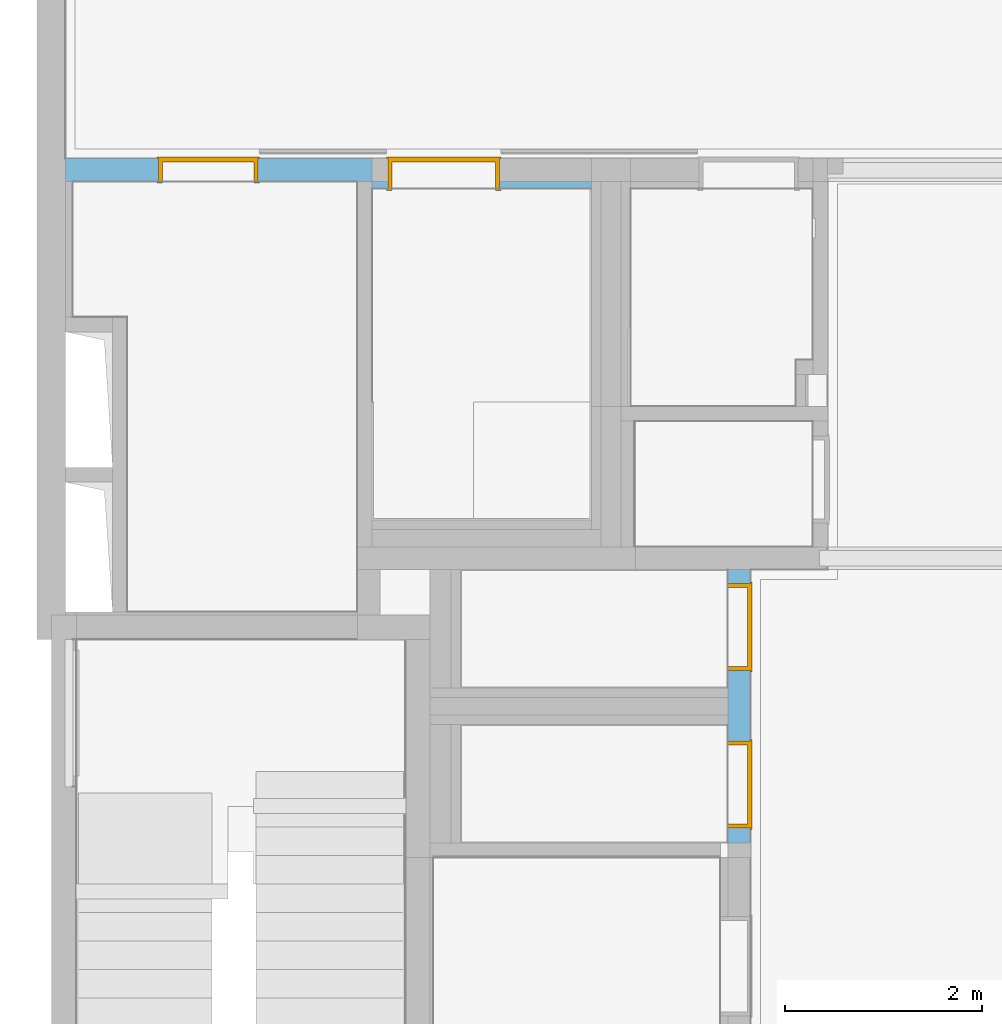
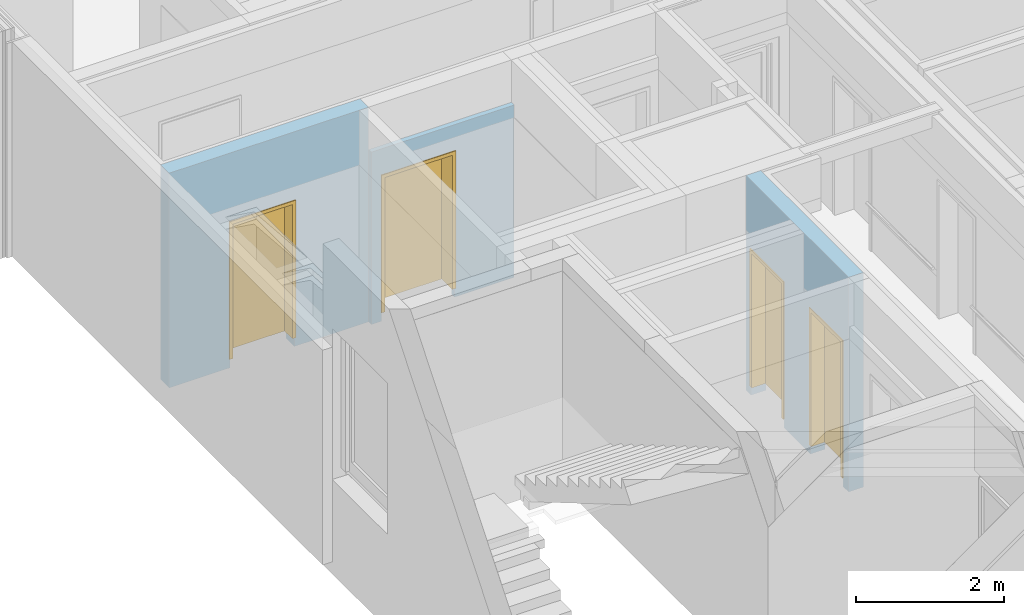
# One storey, part 71 of 222: 4 doors, 4 openings, plus 3 elements that do not belong to this part.
"""IFC4 building model written with IfcOpenShell, lengths in metres."""

import ifcopenshell
import ifcopenshell.guid

model = None  # the IFC model being written
_history = None  # IfcOwnerHistory: only IFC2X3 demands one
_inside = {}  # id of a spatial element -> (the spatial element, [elements in it])
_under = {}  # id of a project, library or spatial element -> (it, [spatial elements below it])
_declared = {}  # id of a project -> (the project, [libraries it declares])
_typed = {}  # id of a type object -> (the type object, [elements of that type])
_made_of = {}  # id of a material, layer set ... -> (it, [elements and type objects made of it])


def new_model(schema):
    """Start an empty IFC model of exactly this schema.

    Asked for "IFC4X3", IfcOpenShell would pick the latest addendum, in which some entities
    have other attributes; the version numbers below select the first issue.
    IFC2X3 requires an IfcOwnerHistory on every rooted entity: one is made here for all.
    """
    global model, _history
    if schema == "IFC4X3":
        model = ifcopenshell.file(schema_version=(4, 3, 0, 0))
    else:
        model = ifcopenshell.file(schema=schema)
    _inside.clear()
    _under.clear()
    _declared.clear()
    _typed.clear()
    _made_of.clear()
    _history = None
    if model.schema == "IFC2X3":
        org = make("IfcOrganization", Name="unknown")
        user = make(
            "IfcPersonAndOrganization",
            ThePerson=make("IfcPerson", FamilyName="unknown"),
            TheOrganization=org,
        )
        app = make(
            "IfcApplication",
            ApplicationDeveloper=org,
            Version="unknown",
            ApplicationFullName="unknown",
            ApplicationIdentifier="unknown",
        )
        _history = make(
            "IfcOwnerHistory",
            OwningUser=user,
            OwningApplication=app,
            ChangeAction="ADDED",
            CreationDate=0,
        )
    return model


def make(cls, **values):
    """One entity of the class cls with the attributes given. An attribute that is None is left unset."""
    return model.create_entity(
        cls, **{name: value for name, value in values.items() if value is not None}
    )


def entity(cls, *values):
    """Any entity or typed value of the class cls, its attributes in the order of the schema. None: left unset."""
    e = model.create_entity(cls)
    for i, value in enumerate(values):
        if value is not None:
            e[i] = value
    return e


def rooted(cls, **values):
    """An entity with a GlobalId (a new one), such as an element, a storey or a relation."""
    return make(cls, GlobalId=ifcopenshell.guid.new(), OwnerHistory=_history, **values)


def si_unit(unit_type, name, prefix=None):
    """IfcSIUnit, for example si_unit("LENGTHUNIT", "METRE", prefix="MILLI")."""
    return make("IfcSIUnit", UnitType=unit_type, Prefix=prefix, Name=name)


def converted_unit(unit_type, name, factor, base, dimensions=None, offset=None):
    """IfcConversionBasedUnit, such as the inch: factor (a typed value) times the base unit."""
    return make(
        "IfcConversionBasedUnit"
        if offset is None
        else "IfcConversionBasedUnitWithOffset",
        ConversionOffset=offset,
        Dimensions=None
        if dimensions is None
        else entity("IfcDimensionalExponents", *dimensions),
        UnitType=unit_type,
        Name=name,
        ConversionFactor=make(
            "IfcMeasureWithUnit", ValueComponent=factor, UnitComponent=base
        ),
    )


def derived_unit(unit_type, elements):
    """IfcDerivedUnit: a product of units, each with its exponent."""
    return make(
        "IfcDerivedUnit",
        Elements=[
            make("IfcDerivedUnitElement", Unit=unit, Exponent=power)
            for unit, power in elements
        ],
        UnitType=unit_type,
    )


def assignment(units):
    """IfcUnitAssignment: the units of a project."""
    return None if units is None else make("IfcUnitAssignment", Units=units)


def point(xyz):
    """IfcCartesianPoint."""
    return None if xyz is None else make("IfcCartesianPoint", Coordinates=xyz)


def direction(xyz):
    """IfcDirection."""
    return None if xyz is None else make("IfcDirection", DirectionRatios=xyz)


def frame(location, z_axis=None, x_axis=None):
    """IfcAxis2Placement3D, a coordinate frame: its origin and axes. An axis left out is left unset."""
    return make(
        "IfcAxis2Placement3D",
        Location=point(location),
        Axis=direction(z_axis),
        RefDirection=direction(x_axis),
    )


def frame_2d(location, x_axis=None):
    """IfcAxis2Placement2D, a coordinate frame in the plane: its origin and x axis."""
    return make(
        "IfcAxis2Placement2D", Location=point(location), RefDirection=direction(x_axis)
    )


def origin():
    """The frame at (0, 0, 0) with its axes left unset."""
    return frame((0.0, 0.0, 0.0))


def origin_with_axes():
    """The frame at (0, 0, 0) with the z axis (0, 0, 1) and the x axis (1, 0, 0) written out."""
    return frame((0.0, 0.0, 0.0), z_axis=(0.0, 0.0, 1.0), x_axis=(1.0, 0.0, 0.0))


def place(relative_to, where):
    """IfcLocalPlacement: puts the frame where relative to a parent placement (None: the world)."""
    return make(
        "IfcLocalPlacement", PlacementRelTo=relative_to, RelativePlacement=where
    )


def context(
    kind, dimensions, precision=None, world=None, true_north=None, identifier=None
):
    """IfcGeometricRepresentationContext, for example the 3D "Model" context."""
    return make(
        "IfcGeometricRepresentationContext",
        ContextIdentifier=identifier,
        ContextType=kind,
        CoordinateSpaceDimension=dimensions,
        Precision=precision,
        WorldCoordinateSystem=world,
        TrueNorth=true_north,
    )


def subcontext(parent, identifier, kind, view, scale=None):
    """IfcGeometricRepresentationSubContext, for example "Body" below "Model"."""
    return make(
        "IfcGeometricRepresentationSubContext",
        ContextIdentifier=identifier,
        ContextType=kind,
        ParentContext=parent,
        TargetScale=scale,
        TargetView=view,
    )


def project(units=None, contexts=None):
    """IfcProject with its units and contexts."""
    return rooted(
        "IfcProject",
        Name="project",
        RepresentationContexts=contexts,
        UnitsInContext=assignment(units),
    )


def spatial(cls, under=None, at=None, **own):
    """A site, building, storey or space (cls), placed at a placement, below another one or the project."""
    s = rooted(cls, ObjectPlacement=at, **own)
    if under is not None:
        _under.setdefault(under.id(), (under, []))[1].append(s)
    return s


def polyline(points):
    """IfcPolyline through the points."""
    return make("IfcPolyline", Points=[point(p) for p in points])


def profile(cls, at=None, kind="AREA", **sizes):
    """A parametric profile (cls). Its sizes go by their IFC names, for example OverallWidth=200.0."""
    return make(cls, ProfileType=kind, Position=at, **sizes)


def rectangle(**sizes):
    """IfcRectangleProfileDef."""
    return profile("IfcRectangleProfileDef", **sizes)


def outline(outer, holes=None, kind="AREA"):
    """IfcArbitraryClosedProfileDef: a profile drawn as a closed curve; with holes, ...WithVoids."""
    if holes is None:
        return make("IfcArbitraryClosedProfileDef", ProfileType=kind, OuterCurve=outer)
    return make(
        "IfcArbitraryProfileDefWithVoids",
        ProfileType=kind,
        OuterCurve=outer,
        InnerCurves=holes,
    )


def extrude(swept, where, along, depth):
    """IfcExtrudedAreaSolid: the profile swept, set in the frame where, extruded along a direction by depth."""
    return make(
        "IfcExtrudedAreaSolid",
        SweptArea=swept,
        Position=where,
        ExtrudedDirection=direction(along),
        Depth=depth,
    )


def faces_of(points, faces, orient=None, outer=None):
    """IfcFace entities. A face is a list of loops; a loop is a list of indices into points, from 0.

    orient and outer hold one flag for each loop. By default every Orientation is true, the
    first loop of a face is its IfcFaceOuterBound and the others are IfcFaceBound.
    """
    made = []
    for i, loops in enumerate(faces):
        bounds = []
        for j, loop in enumerate(loops):
            is_outer = j == 0 if outer is None else outer[i][j]
            bounds.append(
                make(
                    "IfcFaceOuterBound" if is_outer else "IfcFaceBound",
                    Bound=make("IfcPolyLoop", Polygon=[points[k] for k in loop]),
                    Orientation=True if orient is None else orient[i][j],
                )
            )
        made.append(make("IfcFace", Bounds=bounds))
    return made


def faceted_brep(points, faces, orient=None, outer=None, voids=None):
    """IfcFacetedBrep: a solid bounded by flat faces; with voids (closed shells), ...WithVoids."""
    shared = [point(p) for p in points]
    hull = make("IfcClosedShell", CfsFaces=faces_of(shared, faces, orient, outer))
    if voids is None:
        return make("IfcFacetedBrep", Outer=hull)
    return make(
        "IfcFacetedBrepWithVoids",
        Outer=hull,
        Voids=[
            make(cls, CfsFaces=faces_of(shared, fs, o, b)) for cls, fs, o, b in voids
        ],
    )


def shape(context_of_items, identifier, shape_type, items):
    """IfcShapeRepresentation: the items that make up one representation, for example the "Body"."""
    return make(
        "IfcShapeRepresentation",
        ContextOfItems=context_of_items,
        RepresentationIdentifier=identifier,
        RepresentationType=shape_type,
        Items=items,
    )


def source(mapping_origin, context_of_items, identifier, shape_type, items):
    """IfcRepresentationMap: a shape defined once, which mapped items show again and again."""
    return make(
        "IfcRepresentationMap",
        MappingOrigin=mapping_origin,
        MappedRepresentation=shape(context_of_items, identifier, shape_type, items),
    )


def transform(
    local_origin,
    x_axis=None,
    y_axis=None,
    z_axis=None,
    scale=None,
    scale2=None,
    scale3=None,
    uniform=True,
):
    """IfcCartesianTransformationOperator3D, or its non-uniform kind. x_axis, y_axis, z_axis: its Axis1, 2, 3."""
    if uniform:
        return make(
            "IfcCartesianTransformationOperator3D",
            Axis1=direction(x_axis),
            Axis2=direction(y_axis),
            LocalOrigin=point(local_origin),
            Scale=scale,
            Axis3=direction(z_axis),
        )
    return make(
        "IfcCartesianTransformationOperator3DnonUniform",
        Axis1=direction(x_axis),
        Axis2=direction(y_axis),
        LocalOrigin=point(local_origin),
        Scale=scale,
        Axis3=direction(z_axis),
        Scale2=scale2,
        Scale3=scale3,
    )


def mapped(mapping_source, mapping_target):
    """IfcMappedItem: shows the shape of a source again, moved by a transform."""
    return make(
        "IfcMappedItem", MappingSource=mapping_source, MappingTarget=mapping_target
    )


def material(Name=None, Category=None):
    """IfcMaterial."""
    return make("IfcMaterial", Name=Name, Category=Category)


def made_of(thing, what):
    """Note that an element or type object is made of a material, layer set ...; save() writes the relation."""
    if what is not None:
        _made_of.setdefault(what.id(), (what, []))[1].append(thing)
    return thing


def type_object(cls, material=None, **own):
    """A type object (cls), such as IfcWallType, which elements share."""
    return made_of(rooted(cls, **own), material)


def element(
    cls,
    number,
    at=None,
    inside=None,
    cuts=None,
    type_object=None,
    material=None,
    context=None,
    identifier="Body",
    shape_type=None,
    held_by="IfcProductDefinitionShape",
    body=None,
    shapes=None,
    **own,
):
    """One element of the class cls, such as IfcWall. Its Tag is "e" and its number.

    at: its placement. inside: the storey or other place that contains it. cuts: it is an
    opening in that element (IfcRelVoidsElement). A single representation is given by context,
    identifier, shape_type and body (its items); several are given by shapes. held_by: the class
    of the entity that holds the representations. save() writes the other relations.
    """
    e = rooted(cls, Tag="e%d" % number, ObjectPlacement=at, **own)
    if body is not None:
        shapes = [shape(context, identifier, shape_type, body)]
    if shapes is not None:
        e.Representation = make(held_by, Representations=shapes)
    if inside is not None:
        _inside.setdefault(inside.id(), (inside, []))[1].append(e)
    if cuts is not None:
        rooted(
            "IfcRelVoidsElement", RelatingBuildingElement=cuts, RelatedOpeningElement=e
        )
    if type_object is not None:
        _typed.setdefault(type_object.id(), (type_object, []))[1].append(e)
    return made_of(e, material)


def fill(opening, filler):
    """IfcRelFillsElement: the door or window that sits in an opening."""
    return rooted(
        "IfcRelFillsElement",
        RelatingOpeningElement=opening,
        RelatedBuildingElement=filler,
    )


def aggregate(whole, parts):
    """IfcRelAggregates: a whole, such as a stair, and the parts it consists of."""
    return rooted("IfcRelAggregates", RelatingObject=whole, RelatedObjects=parts)


def save(model, path):
    """Write the relations noted so far, then the file.

    IfcRelAggregates (storeys below a building ...), IfcRelContainedInSpatialStructure (elements
    in a storey), IfcRelDefinesByType, IfcRelAssociatesMaterial and IfcRelDeclares: one each for
    every whole, place, type object, material and project.
    """
    for whole, parts in _under.values():
        aggregate(whole, parts)
    for where, things in _inside.values():
        rooted(
            "IfcRelContainedInSpatialStructure",
            RelatedElements=things,
            RelatingStructure=where,
        )
    for kind, things in _typed.values():
        rooted("IfcRelDefinesByType", RelatedObjects=things, RelatingType=kind)
    for what, things in _made_of.values():
        rooted("IfcRelAssociatesMaterial", RelatedObjects=things, RelatingMaterial=what)
    for by, libraries in _declared.values():
        rooted("IfcRelDeclares", RelatingContext=by, RelatedDefinitions=libraries)
    model.write(path)


model = new_model("IFC4")

# Units and contexts
model_context = context("Model", 3, precision=1e-05, world=origin())
body_context = subcontext(model_context, "Body", "Model", "MODEL_VIEW")
ifc_project = project(units=[si_unit("LENGTHUNIT", "METRE"), si_unit("AREAUNIT", "SQUARE_METRE"), si_unit("VOLUMEUNIT", "CUBIC_METRE"), si_unit("MASSUNIT", "GRAM", prefix="KILO"), converted_unit("PLANEANGLEUNIT", "DEGREE", entity("IfcPlaneAngleMeasure", 0.0174532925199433), si_unit("PLANEANGLEUNIT", "RADIAN"), dimensions=[0, 0, 0, 0, 0, 0, 0]), derived_unit("THERMALTRANSMITTANCEUNIT", [(si_unit("POWERUNIT", "WATT"), 1), (si_unit("THERMODYNAMICTEMPERATUREUNIT", "KELVIN"), -1), (si_unit("LENGTHUNIT", "METRE"), -2)]), derived_unit("VOLUMETRICFLOWRATEUNIT", [(si_unit("LENGTHUNIT", "METRE"), 3), (converted_unit("TIMEUNIT", "hour", entity("IfcTimeMeasure", 3600.0), si_unit("TIMEUNIT", "SECOND"), dimensions=[0, 0, 1, 0, 0, 0, 0]), -1), (si_unit("LENGTHUNIT", "METRE"), -1)])], contexts=[model_context])

# Site, building, storey
site_placement = place(None, origin())
site = spatial("IfcSite", under=ifc_project, at=site_placement, Name="Psychiatrie Neubau Wunstorf", CompositionType="ELEMENT")
building_placement = place(site_placement, origin())
building = spatial("IfcBuilding", under=site, at=building_placement, Name="Neubau H2 Stationsgebäude", CompositionType="ELEMENT")
storey_placement = place(building_placement, frame((0.0, 0.0, 3.6)))
storey = spatial("IfcBuildingStorey", under=building, at=storey_placement, Name="H2 Ebene +1", CompositionType="ELEMENT", Elevation=3.6)

# Wall, openings, doors
ifc_material_1 = material(Name="WI-HW 60")
wall_1_placement = place(storey_placement, frame((7.1409987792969, 14.8750132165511, 0.0), z_axis=(0.0, 0.0, 1.0), x_axis=(0.0, 1.0, 0.0)))
wall_1 = element("IfcWall", 1, at=wall_1_placement, inside=storey, material=ifc_material_1, context=body_context, shape_type="SweptSolid", body=[
    extrude(rectangle(XDim=2.77900000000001, YDim=0.232, at=frame_2d((1.3895, 0.116), x_axis=(1.0, 0.0))), origin_with_axes(), (0.0, 0.0, 1.0), 3.55),
])
opening_1_placement = place(wall_1_placement, frame((1.75500131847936, 0.0, 0.0), z_axis=(0.0, 1.0, 0.0), x_axis=(0.0, 0.0, 1.0)))
opening_1 = element("IfcOpeningElement", 2, at=opening_1_placement, cuts=wall_1, Name="Türöffnung", ObjectType="Opening", context=body_context, shape_type="SweptSolid", body=[
    extrude(outline(polyline([(2.41, 0.885), (2.41, 0.0), (0.0, 0.0), (0.0, 0.885), (2.41, 0.885)])), origin_with_axes(), (0.0, 0.0, 1.0), 0.232),
])
opening_2_placement = place(wall_1_placement, frame((0.15, 0.0, 0.0), z_axis=(0.0, 1.0, 0.0), x_axis=(0.0, 0.0, 1.0)))
opening_2 = element("IfcOpeningElement", 3, at=opening_2_placement, cuts=wall_1, Name="Türöffnung", ObjectType="Opening", context=body_context, shape_type="SweptSolid", body=[
    extrude(outline(polyline([(2.41, 0.885), (2.41, 0.0), (0.0, 0.0), (0.0, 0.885), (2.41, 0.885)])), origin_with_axes(), (0.0, 0.0, 1.0), 0.232),
])
ifc_material_2 = material(Name="TI-1F-UZ-D-N")
door_type_1 = type_object("IfcDoorType", Name="SMT", OperationType="SINGLE_SWING_RIGHT", ParameterTakesPrecedence=False, PredefinedType="DOOR")
shared_shape_1 = source(origin_with_axes(), body_context, "Body", "Brep", [
    faceted_brep([(0.0, -0.0150000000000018, 2.41), (0.0400000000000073, -0.0150000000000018, 2.41), (0.0400000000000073, -0.0150000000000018, 0.15), (0.0, -0.0150000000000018, 0.15), (0.0, 0.246999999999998, 0.15), (0.0400000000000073, 0.246999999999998, 0.15), (0.0400000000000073, 0.246999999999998, 2.41), (0.0, 0.246999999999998, 2.41)], [[[0, 1, 2, 3]], [[4, 5, 6, 7]], [[3, 4, 7, 0]], [[2, 5, 4, 3]], [[1, 6, 5, 2]], [[0, 7, 6, 1]]], orient=[[False], [False], [False], [False], [False], [False]]),
    faceted_brep([(0.0, -0.0150000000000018, 2.425), (0.0, -0.0150000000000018, 0.15), (-0.0149999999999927, -0.0150000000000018, 0.15), (-0.0149999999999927, -0.0150000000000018, 2.425), (0.0, 0.0, 0.15), (0.0, 0.0, 2.425), (-0.0149999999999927, 0.0, 2.425), (-0.0149999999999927, 0.0, 0.15)], [[[0, 1, 2, 3]], [[4, 5, 6, 7]], [[1, 0, 5, 4]], [[2, 1, 4, 7]], [[3, 2, 7, 6]], [[0, 3, 6, 5]]], orient=[[False], [False], [False], [False], [False], [False]]),
    faceted_brep([(0.0, 0.231999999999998, 2.425), (0.0, 0.231999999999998, 0.15), (-0.0149999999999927, 0.231999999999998, 0.15), (-0.0149999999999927, 0.231999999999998, 2.425), (0.0, 0.246999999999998, 0.15), (0.0, 0.246999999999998, 2.425), (-0.0149999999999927, 0.246999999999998, 2.425), (-0.0149999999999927, 0.246999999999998, 0.15)], [[[0, 1, 2, 3]], [[4, 5, 6, 7]], [[1, 0, 5, 4]], [[2, 1, 4, 7]], [[3, 2, 7, 6]], [[0, 3, 6, 5]]], orient=[[False], [False], [False], [False], [False], [False]]),
    faceted_brep([(0.845000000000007, -0.0150000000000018, 2.41), (0.885000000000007, -0.0150000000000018, 2.41), (0.885000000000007, -0.0150000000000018, 0.15), (0.845000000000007, -0.0150000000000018, 0.15), (0.845000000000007, 0.246999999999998, 0.15), (0.885000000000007, 0.246999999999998, 0.15), (0.885000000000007, 0.246999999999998, 2.41), (0.845000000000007, 0.246999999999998, 2.41)], [[[0, 1, 2, 3]], [[4, 5, 6, 7]], [[3, 4, 7, 0]], [[2, 5, 4, 3]], [[1, 6, 5, 2]], [[0, 7, 6, 1]]], orient=[[False], [False], [False], [False], [False], [False]]),
    faceted_brep([(0.885000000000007, -0.0150000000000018, 2.425), (0.900000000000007, -0.0150000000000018, 2.425), (0.900000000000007, -0.0150000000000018, 0.15), (0.885000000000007, -0.0150000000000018, 0.15), (0.885000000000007, 0.0, 0.15), (0.900000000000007, 0.0, 0.15), (0.900000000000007, 0.0, 2.425), (0.885000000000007, 0.0, 2.425)], [[[0, 1, 2, 3]], [[4, 5, 6, 7]], [[3, 4, 7, 0]], [[2, 5, 4, 3]], [[1, 6, 5, 2]], [[0, 7, 6, 1]]], orient=[[False], [False], [False], [False], [False], [False]]),
    faceted_brep([(0.885000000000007, 0.231999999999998, 2.425), (0.900000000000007, 0.231999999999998, 2.425), (0.900000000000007, 0.231999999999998, 0.15), (0.885000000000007, 0.231999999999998, 0.15), (0.885000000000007, 0.246999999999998, 0.15), (0.900000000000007, 0.246999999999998, 0.15), (0.900000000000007, 0.246999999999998, 2.425), (0.885000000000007, 0.246999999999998, 2.425)], [[[0, 1, 2, 3]], [[4, 5, 6, 7]], [[3, 4, 7, 0]], [[2, 5, 4, 3]], [[1, 6, 5, 2]], [[0, 7, 6, 1]]], orient=[[False], [False], [False], [False], [False], [False]]),
    faceted_brep([(0.0400000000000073, -0.0150000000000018, 2.41), (0.845000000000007, -0.0150000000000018, 2.41), (0.845000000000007, -0.0150000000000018, 2.37), (0.0400000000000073, -0.0150000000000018, 2.37), (0.0400000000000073, 0.246999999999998, 2.37), (0.845000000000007, 0.246999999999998, 2.37), (0.845000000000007, 0.246999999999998, 2.41), (0.0400000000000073, 0.246999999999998, 2.41)], [[[0, 1, 2, 3]], [[4, 5, 6, 7]], [[3, 4, 7, 0]], [[2, 5, 4, 3]], [[1, 6, 5, 2]], [[0, 7, 6, 1]]], orient=[[False], [False], [False], [False], [False], [False]]),
    faceted_brep([(0.0, -0.0150000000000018, 2.425), (0.885000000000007, -0.0150000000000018, 2.425), (0.885000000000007, -0.0150000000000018, 2.41), (0.0, -0.0150000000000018, 2.41), (0.0, 0.0, 2.41), (0.885000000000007, 0.0, 2.41), (0.885000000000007, 0.0, 2.425), (0.0, 0.0, 2.425)], [[[0, 1, 2, 3]], [[4, 5, 6, 7]], [[3, 4, 7, 0]], [[2, 5, 4, 3]], [[1, 6, 5, 2]], [[0, 7, 6, 1]]], orient=[[False], [False], [False], [False], [False], [False]]),
    faceted_brep([(0.0, 0.231999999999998, 2.425), (0.885000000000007, 0.231999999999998, 2.425), (0.885000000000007, 0.231999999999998, 2.41), (0.0, 0.231999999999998, 2.41), (0.0, 0.246999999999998, 2.41), (0.885000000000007, 0.246999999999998, 2.41), (0.885000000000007, 0.246999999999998, 2.425), (0.0, 0.246999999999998, 2.425)], [[[0, 1, 2, 3]], [[4, 5, 6, 7]], [[3, 4, 7, 0]], [[2, 5, 4, 3]], [[1, 6, 5, 2]], [[0, 7, 6, 1]]], orient=[[False], [False], [False], [False], [False], [False]]),
    faceted_brep([(0.0250000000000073, 0.197999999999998, 2.385), (0.860000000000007, 0.197999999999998, 2.385), (0.860000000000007, 0.197999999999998, 0.15), (0.0250000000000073, 0.197999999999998, 0.15), (0.0250000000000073, 0.247999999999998, 0.15), (0.860000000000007, 0.247999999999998, 0.15), (0.860000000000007, 0.247999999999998, 2.385), (0.0250000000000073, 0.247999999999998, 2.385)], [[[0, 1, 2, 3]], [[4, 5, 6, 7]], [[3, 4, 7, 0]], [[2, 5, 4, 3]], [[1, 6, 5, 2]], [[0, 7, 6, 1]]], orient=[[False], [False], [False], [False], [False], [False]]),
])
door_1_placement = place(opening_1_placement, frame((0.0, 0.885, 0.232), z_axis=(1.0, 0.0, 0.0), x_axis=(0.0, -1.0, 0.0)))
door_1 = element("IfcDoor", 4, at=door_1_placement, inside=storey, type_object=door_type_1, material=ifc_material_2, Name="SMT", OverallHeight=2.41, OverallWidth=0.885, context=body_context, shape_type="MappedRepresentation", body=[
    mapped(shared_shape_1, transform((0.0, 0.0, 0.0), x_axis=(1.0, 0.0, 0.0), y_axis=(0.0, 1.0, 0.0), z_axis=(0.0, 0.0, 1.0), scale=1.0)),
])
fill(opening_1, door_1)
ifc_material_3 = material(Name="TI-1F-UZ-D-N")
door_type_2 = type_object("IfcDoorType", Name="SMT", OperationType="SINGLE_SWING_RIGHT", ParameterTakesPrecedence=False, PredefinedType="DOOR")
shared_shape_2 = source(origin_with_axes(), body_context, "Body", "Brep", [
    faceted_brep([(0.885000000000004, -0.0150000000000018, 2.41), (0.885000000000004, -0.0150000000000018, 0.15), (0.845000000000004, -0.0150000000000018, 0.15), (0.845000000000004, -0.0150000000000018, 2.41), (0.885000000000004, 0.246999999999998, 0.15), (0.885000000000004, 0.246999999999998, 2.41), (0.845000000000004, 0.246999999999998, 2.41), (0.845000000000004, 0.246999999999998, 0.15)], [[[0, 1, 2, 3]], [[4, 5, 6, 7]], [[1, 0, 5, 4]], [[2, 1, 4, 7]], [[3, 2, 7, 6]], [[0, 3, 6, 5]]], orient=[[False], [False], [False], [False], [False], [False]]),
    faceted_brep([(0.885000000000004, -0.0150000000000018, 2.425), (0.900000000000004, -0.0150000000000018, 2.425), (0.900000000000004, -0.0150000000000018, 0.15), (0.885000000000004, -0.0150000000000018, 0.15), (0.885000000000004, 0.0, 0.15), (0.900000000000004, 0.0, 0.15), (0.900000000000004, 0.0, 2.425), (0.885000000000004, 0.0, 2.425)], [[[0, 1, 2, 3]], [[4, 5, 6, 7]], [[3, 4, 7, 0]], [[2, 5, 4, 3]], [[1, 6, 5, 2]], [[0, 7, 6, 1]]], orient=[[False], [False], [False], [False], [False], [False]]),
    faceted_brep([(0.885000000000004, 0.231999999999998, 2.425), (0.900000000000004, 0.231999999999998, 2.425), (0.900000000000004, 0.231999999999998, 0.15), (0.885000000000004, 0.231999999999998, 0.15), (0.885000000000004, 0.246999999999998, 0.15), (0.900000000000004, 0.246999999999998, 0.15), (0.900000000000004, 0.246999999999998, 2.425), (0.885000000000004, 0.246999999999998, 2.425)], [[[0, 1, 2, 3]], [[4, 5, 6, 7]], [[3, 4, 7, 0]], [[2, 5, 4, 3]], [[1, 6, 5, 2]], [[0, 7, 6, 1]]], orient=[[False], [False], [False], [False], [False], [False]]),
    faceted_brep([(0.0400000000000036, -0.0150000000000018, 2.41), (0.0400000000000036, -0.0150000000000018, 0.15), (0.0, -0.0150000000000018, 0.15), (0.0, -0.0150000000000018, 2.41), (0.0400000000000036, 0.246999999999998, 0.15), (0.0400000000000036, 0.246999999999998, 2.41), (0.0, 0.246999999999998, 2.41), (0.0, 0.246999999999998, 0.15)], [[[0, 1, 2, 3]], [[4, 5, 6, 7]], [[1, 0, 5, 4]], [[2, 1, 4, 7]], [[3, 2, 7, 6]], [[0, 3, 6, 5]]], orient=[[False], [False], [False], [False], [False], [False]]),
    faceted_brep([(0.0, -0.0150000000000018, 2.425), (0.0, -0.0150000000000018, 0.15), (-0.0149999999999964, -0.0150000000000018, 0.15), (-0.0149999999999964, -0.0150000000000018, 2.425), (0.0, 0.0, 0.15), (0.0, 0.0, 2.425), (-0.0149999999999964, 0.0, 2.425), (-0.0149999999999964, 0.0, 0.15)], [[[0, 1, 2, 3]], [[4, 5, 6, 7]], [[1, 0, 5, 4]], [[2, 1, 4, 7]], [[3, 2, 7, 6]], [[0, 3, 6, 5]]], orient=[[False], [False], [False], [False], [False], [False]]),
    faceted_brep([(0.0, 0.231999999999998, 2.425), (0.0, 0.231999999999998, 0.15), (-0.0149999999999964, 0.231999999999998, 0.15), (-0.0149999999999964, 0.231999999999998, 2.425), (0.0, 0.246999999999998, 0.15), (0.0, 0.246999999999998, 2.425), (-0.0149999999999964, 0.246999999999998, 2.425), (-0.0149999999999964, 0.246999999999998, 0.15)], [[[0, 1, 2, 3]], [[4, 5, 6, 7]], [[1, 0, 5, 4]], [[2, 1, 4, 7]], [[3, 2, 7, 6]], [[0, 3, 6, 5]]], orient=[[False], [False], [False], [False], [False], [False]]),
    faceted_brep([(0.845000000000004, -0.0150000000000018, 2.41), (0.845000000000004, -0.0150000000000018, 2.37), (0.0400000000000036, -0.0150000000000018, 2.37), (0.0400000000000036, -0.0150000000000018, 2.41), (0.845000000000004, 0.246999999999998, 2.37), (0.845000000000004, 0.246999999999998, 2.41), (0.0400000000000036, 0.246999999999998, 2.41), (0.0400000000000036, 0.246999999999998, 2.37)], [[[0, 1, 2, 3]], [[4, 5, 6, 7]], [[1, 0, 5, 4]], [[2, 1, 4, 7]], [[3, 2, 7, 6]], [[0, 3, 6, 5]]], orient=[[False], [False], [False], [False], [False], [False]]),
    faceted_brep([(0.885000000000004, -0.0150000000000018, 2.425), (0.885000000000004, -0.0150000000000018, 2.41), (0.0, -0.0150000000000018, 2.41), (0.0, -0.0150000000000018, 2.425), (0.885000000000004, 0.0, 2.41), (0.885000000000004, 0.0, 2.425), (0.0, 0.0, 2.425), (0.0, 0.0, 2.41)], [[[0, 1, 2, 3]], [[4, 5, 6, 7]], [[1, 0, 5, 4]], [[2, 1, 4, 7]], [[3, 2, 7, 6]], [[0, 3, 6, 5]]], orient=[[False], [False], [False], [False], [False], [False]]),
    faceted_brep([(0.885000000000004, 0.231999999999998, 2.425), (0.885000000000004, 0.231999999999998, 2.41), (0.0, 0.231999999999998, 2.41), (0.0, 0.231999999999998, 2.425), (0.885000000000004, 0.246999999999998, 2.41), (0.885000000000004, 0.246999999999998, 2.425), (0.0, 0.246999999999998, 2.425), (0.0, 0.246999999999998, 2.41)], [[[0, 1, 2, 3]], [[4, 5, 6, 7]], [[1, 0, 5, 4]], [[2, 1, 4, 7]], [[3, 2, 7, 6]], [[0, 3, 6, 5]]], orient=[[False], [False], [False], [False], [False], [False]]),
    faceted_brep([(0.860000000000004, 0.197999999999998, 2.385), (0.860000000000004, 0.197999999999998, 0.15), (0.0250000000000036, 0.197999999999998, 0.15), (0.0250000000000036, 0.197999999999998, 2.385), (0.860000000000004, 0.247999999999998, 0.15), (0.860000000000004, 0.247999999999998, 2.385), (0.0250000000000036, 0.247999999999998, 2.385), (0.0250000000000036, 0.247999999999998, 0.15)], [[[0, 1, 2, 3]], [[4, 5, 6, 7]], [[1, 0, 5, 4]], [[2, 1, 4, 7]], [[3, 2, 7, 6]], [[0, 3, 6, 5]]], orient=[[False], [False], [False], [False], [False], [False]]),
])
door_2_placement = place(opening_2_placement, frame((0.0, 0.885, 0.232), z_axis=(1.0, 0.0, 0.0), x_axis=(0.0, -1.0, 0.0)))
door_2 = element("IfcDoor", 5, at=door_2_placement, inside=storey, type_object=door_type_2, material=ifc_material_3, Name="SMT", OverallHeight=2.41, OverallWidth=0.885, context=body_context, shape_type="MappedRepresentation", body=[
    mapped(shared_shape_2, transform((0.0, 0.0, 0.0), x_axis=(1.0, 0.0, 0.0), y_axis=(0.0, 1.0, 0.0), z_axis=(0.0, 0.0, 1.0), scale=1.0)),
])
fill(opening_2, door_2)

# Wall, opening, door
ifc_material_4 = material(Name="WI-HW 60")
wall_2_placement = place(storey_placement, frame((0.169000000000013, 21.604, 0.0), z_axis=(0.0, 0.0, 1.0), x_axis=(1.0, 4.66406608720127e-15, 0.0)))
wall_2 = element("IfcWall", 6, at=wall_2_placement, inside=storey, material=ifc_material_4, context=body_context, shape_type="SweptSolid", body=[
    extrude(rectangle(XDim=3.12000622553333, YDim=0.232, at=frame_2d((1.56000311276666, 0.116), x_axis=(1.0, 0.0))), origin_with_axes(), (0.0, 0.0, 1.0), 3.55),
])
opening_3_placement = place(wall_2_placement, frame((0.948454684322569, 0.0, 0.0), z_axis=(4.90029472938e-15, 1.0, 0.0), x_axis=(0.0, 0.0, 1.0)))
opening_3 = element("IfcOpeningElement", 7, at=opening_3_placement, cuts=wall_2, Name="SMT", ObjectType="Opening", context=body_context, shape_type="SweptSolid", body=[
    extrude(outline(polyline([(2.41, 1.01), (2.41, 0.0), (0.0, 0.0), (0.0, 1.01), (2.41, 1.01)])), origin_with_axes(), (0.0, 0.0, 1.0), 0.232),
])
ifc_material_5 = material(Name="TI-1F-UZ-ZK")
door_type_3 = type_object("IfcDoorType", Name="SMT", OperationType="SINGLE_SWING_RIGHT", ParameterTakesPrecedence=False, PredefinedType="DOOR")
shared_shape_3 = source(origin_with_axes(), body_context, "Body", "Brep", [
    faceted_brep([(0.0, -0.015, 2.41), (0.04, -0.015, 2.41), (0.04, -0.015, 0.15), (0.0, -0.015, 0.15), (0.0, 0.247, 0.15), (0.04, 0.247, 0.15), (0.04, 0.247, 2.41), (0.0, 0.247, 2.41)], [[[0, 1, 2, 3]], [[4, 5, 6, 7]], [[3, 4, 7, 0]], [[2, 5, 4, 3]], [[1, 6, 5, 2]], [[0, 7, 6, 1]]], orient=[[False], [False], [False], [False], [False], [False]]),
    faceted_brep([(0.0, -0.015, 2.425), (0.0, -0.015, 0.15), (-0.015, -0.015, 0.15), (-0.015, -0.015, 2.425), (0.0, 0.0, 0.15), (0.0, 0.0, 2.425), (-0.015, 0.0, 2.425), (-0.015, 0.0, 0.15)], [[[0, 1, 2, 3]], [[4, 5, 6, 7]], [[1, 0, 5, 4]], [[2, 1, 4, 7]], [[3, 2, 7, 6]], [[0, 3, 6, 5]]], orient=[[False], [False], [False], [False], [False], [False]]),
    faceted_brep([(0.0, 0.232, 2.425), (0.0, 0.232, 0.15), (-0.015, 0.232, 0.15), (-0.015, 0.232, 2.425), (0.0, 0.247, 0.15), (0.0, 0.247, 2.425), (-0.015, 0.247, 2.425), (-0.015, 0.247, 0.15)], [[[0, 1, 2, 3]], [[4, 5, 6, 7]], [[1, 0, 5, 4]], [[2, 1, 4, 7]], [[3, 2, 7, 6]], [[0, 3, 6, 5]]], orient=[[False], [False], [False], [False], [False], [False]]),
    faceted_brep([(0.970000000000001, -0.015, 2.41), (1.01, -0.015, 2.41), (1.01, -0.015, 0.15), (0.970000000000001, -0.015, 0.15), (0.970000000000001, 0.247, 0.15), (1.01, 0.247, 0.15), (1.01, 0.247, 2.41), (0.970000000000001, 0.247, 2.41)], [[[0, 1, 2, 3]], [[4, 5, 6, 7]], [[3, 4, 7, 0]], [[2, 5, 4, 3]], [[1, 6, 5, 2]], [[0, 7, 6, 1]]], orient=[[False], [False], [False], [False], [False], [False]]),
    faceted_brep([(1.01, -0.015, 2.425), (1.025, -0.015, 2.425), (1.025, -0.015, 0.15), (1.01, -0.015, 0.15), (1.01, 0.0, 0.15), (1.025, 0.0, 0.15), (1.025, 0.0, 2.425), (1.01, 0.0, 2.425)], [[[0, 1, 2, 3]], [[4, 5, 6, 7]], [[3, 4, 7, 0]], [[2, 5, 4, 3]], [[1, 6, 5, 2]], [[0, 7, 6, 1]]], orient=[[False], [False], [False], [False], [False], [False]]),
    faceted_brep([(1.01, 0.232, 2.425), (1.025, 0.232, 2.425), (1.025, 0.232, 0.15), (1.01, 0.232, 0.15), (1.01, 0.247, 0.15), (1.025, 0.247, 0.15), (1.025, 0.247, 2.425), (1.01, 0.247, 2.425)], [[[0, 1, 2, 3]], [[4, 5, 6, 7]], [[3, 4, 7, 0]], [[2, 5, 4, 3]], [[1, 6, 5, 2]], [[0, 7, 6, 1]]], orient=[[False], [False], [False], [False], [False], [False]]),
    faceted_brep([(0.04, -0.015, 2.41), (0.970000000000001, -0.015, 2.41), (0.970000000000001, -0.015, 2.37), (0.04, -0.015, 2.37), (0.04, 0.247, 2.37), (0.970000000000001, 0.247, 2.37), (0.970000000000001, 0.247, 2.41), (0.04, 0.247, 2.41)], [[[0, 1, 2, 3]], [[4, 5, 6, 7]], [[3, 4, 7, 0]], [[2, 5, 4, 3]], [[1, 6, 5, 2]], [[0, 7, 6, 1]]], orient=[[False], [False], [False], [False], [False], [False]]),
    faceted_brep([(0.0, -0.015, 2.425), (1.01, -0.015, 2.425), (1.01, -0.015, 2.41), (0.0, -0.015, 2.41), (0.0, 0.0, 2.41), (1.01, 0.0, 2.41), (1.01, 0.0, 2.425), (0.0, 0.0, 2.425)], [[[0, 1, 2, 3]], [[4, 5, 6, 7]], [[3, 4, 7, 0]], [[2, 5, 4, 3]], [[1, 6, 5, 2]], [[0, 7, 6, 1]]], orient=[[False], [False], [False], [False], [False], [False]]),
    faceted_brep([(0.0, 0.232, 2.425), (1.01, 0.232, 2.425), (1.01, 0.232, 2.41), (0.0, 0.232, 2.41), (0.0, 0.247, 2.41), (1.01, 0.247, 2.41), (1.01, 0.247, 2.425), (0.0, 0.247, 2.425)], [[[0, 1, 2, 3]], [[4, 5, 6, 7]], [[3, 4, 7, 0]], [[2, 5, 4, 3]], [[1, 6, 5, 2]], [[0, 7, 6, 1]]], orient=[[False], [False], [False], [False], [False], [False]]),
    faceted_brep([(0.025, 0.198, 2.385), (0.985000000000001, 0.198, 2.385), (0.985000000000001, 0.198, 0.15), (0.025, 0.198, 0.15), (0.025, 0.248, 0.15), (0.985000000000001, 0.248, 0.15), (0.985000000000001, 0.248, 2.385), (0.025, 0.248, 2.385)], [[[0, 1, 2, 3]], [[4, 5, 6, 7]], [[3, 4, 7, 0]], [[2, 5, 4, 3]], [[1, 6, 5, 2]], [[0, 7, 6, 1]]], orient=[[False], [False], [False], [False], [False], [False]]),
])
door_3_placement = place(opening_3_placement, frame((0.0, 0.0, 0.0), z_axis=(1.0, 0.0, 0.0), x_axis=(0.0, 1.0, 2.36228642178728e-16)))
door_3 = element("IfcDoor", 8, at=door_3_placement, inside=storey, type_object=door_type_3, material=ifc_material_5, Name="SMT", OverallHeight=2.41, OverallWidth=1.01, context=body_context, shape_type="MappedRepresentation", body=[
    mapped(shared_shape_3, transform((0.0, 0.0, 0.0), x_axis=(1.0, 0.0, 0.0), y_axis=(0.0, 1.0, 0.0), z_axis=(0.0, 0.0, 1.0), scale=1.0)),
])
fill(opening_3, door_3)

ifc_material_6 = material(Name="WI-LB")
wall_3_placement = place(storey_placement, frame((3.28900622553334, 21.529, 0.0)))
wall_3 = element("IfcWall", 9, at=wall_3_placement, inside=storey, material=ifc_material_6, context=body_context, shape_type="SweptSolid", body=[
    extrude(rectangle(XDim=2.2313934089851, YDim=0.075, at=frame_2d((1.11569670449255, 0.0375), x_axis=(1.0, 0.0))), origin_with_axes(), (0.0, 0.0, 1.0), 2.85),
])
opening_4_placement = place(wall_3_placement, frame((0.160999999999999, 0.0, 0.0), z_axis=(0.0, 1.0, 0.0), x_axis=(0.0, 0.0, 1.0)))
opening_4 = element("IfcOpeningElement", 10, at=opening_4_placement, cuts=wall_3, Name="Türöffnung", ObjectType="Opening", context=body_context, shape_type="SweptSolid", body=[
    extrude(outline(polyline([(2.41, 1.135), (2.41, 0.0), (0.0, 0.0), (0.0, 1.135), (2.41, 1.135)])), origin_with_axes(), (0.0, 0.0, 1.0), 0.075),
])
ifc_material_7 = material(Name="TI-1F-UZ-D-N")
door_type_4 = type_object("IfcDoorType", Name="SMT", OperationType="SINGLE_SWING_RIGHT", ParameterTakesPrecedence=False, PredefinedType="DOOR")
shared_shape_4 = source(origin_with_axes(), body_context, "Body", "Brep", [
    faceted_brep([(0.0, -0.015, 2.41), (0.04, -0.015, 2.41), (0.04, -0.015, 0.15), (0.0, -0.015, 0.15), (0.0, 0.321999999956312, 0.15), (0.04, 0.321999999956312, 0.15), (0.04, 0.321999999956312, 2.41), (0.0, 0.321999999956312, 2.41)], [[[0, 1, 2, 3]], [[4, 5, 6, 7]], [[3, 4, 7, 0]], [[2, 5, 4, 3]], [[1, 6, 5, 2]], [[0, 7, 6, 1]]], orient=[[False], [False], [False], [False], [False], [False]]),
    faceted_brep([(0.0, -0.015, 2.425), (0.0, -0.015, 0.15), (-0.015, -0.015, 0.15), (-0.015, -0.015, 2.425), (0.0, 0.0, 0.15), (0.0, 0.0, 2.425), (-0.015, 0.0, 2.425), (-0.015, 0.0, 0.15)], [[[0, 1, 2, 3]], [[4, 5, 6, 7]], [[1, 0, 5, 4]], [[2, 1, 4, 7]], [[3, 2, 7, 6]], [[0, 3, 6, 5]]], orient=[[False], [False], [False], [False], [False], [False]]),
    faceted_brep([(0.0, 0.306999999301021, 2.425), (0.0, 0.306999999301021, 0.15), (-0.015, 0.306999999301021, 0.15), (-0.015, 0.306999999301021, 2.425), (0.0, 0.321999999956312, 0.15), (0.0, 0.321999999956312, 2.425), (-0.015, 0.321999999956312, 2.425), (-0.015, 0.321999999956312, 0.15)], [[[0, 1, 2, 3]], [[4, 5, 6, 7]], [[1, 0, 5, 4]], [[2, 1, 4, 7]], [[3, 2, 7, 6]], [[0, 3, 6, 5]]], orient=[[False], [False], [False], [False], [False], [False]]),
    faceted_brep([(1.095, -0.015, 2.41), (1.135, -0.015, 2.41), (1.135, -0.015, 0.15), (1.095, -0.015, 0.15), (1.095, 0.321999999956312, 0.15), (1.135, 0.321999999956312, 0.15), (1.135, 0.321999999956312, 2.41), (1.095, 0.321999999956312, 2.41)], [[[0, 1, 2, 3]], [[4, 5, 6, 7]], [[3, 4, 7, 0]], [[2, 5, 4, 3]], [[1, 6, 5, 2]], [[0, 7, 6, 1]]], orient=[[False], [False], [False], [False], [False], [False]]),
    faceted_brep([(1.135, -0.015, 2.425), (1.15, -0.015, 2.425), (1.15, -0.015, 0.15), (1.135, -0.015, 0.15), (1.135, 0.0, 0.15), (1.15, 0.0, 0.15), (1.15, 0.0, 2.425), (1.135, 0.0, 2.425)], [[[0, 1, 2, 3]], [[4, 5, 6, 7]], [[3, 4, 7, 0]], [[2, 5, 4, 3]], [[1, 6, 5, 2]], [[0, 7, 6, 1]]], orient=[[False], [False], [False], [False], [False], [False]]),
    faceted_brep([(1.135, 0.306999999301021, 2.425), (1.15, 0.306999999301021, 2.425), (1.15, 0.306999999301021, 0.15), (1.135, 0.306999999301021, 0.15), (1.135, 0.321999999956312, 0.15), (1.15, 0.321999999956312, 0.15), (1.15, 0.321999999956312, 2.425), (1.135, 0.321999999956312, 2.425)], [[[0, 1, 2, 3]], [[4, 5, 6, 7]], [[3, 4, 7, 0]], [[2, 5, 4, 3]], [[1, 6, 5, 2]], [[0, 7, 6, 1]]], orient=[[False], [False], [False], [False], [False], [False]]),
    faceted_brep([(0.04, -0.015, 2.41), (1.095, -0.015, 2.41), (1.095, -0.015, 2.37), (0.04, -0.015, 2.37), (0.04, 0.321999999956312, 2.37), (1.095, 0.321999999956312, 2.37), (1.095, 0.321999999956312, 2.41), (0.04, 0.321999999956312, 2.41)], [[[0, 1, 2, 3]], [[4, 5, 6, 7]], [[3, 4, 7, 0]], [[2, 5, 4, 3]], [[1, 6, 5, 2]], [[0, 7, 6, 1]]], orient=[[False], [False], [False], [False], [False], [False]]),
    faceted_brep([(0.0, -0.015, 2.425), (1.135, -0.015, 2.425), (1.135, -0.015, 2.41), (0.0, -0.015, 2.41), (0.0, 0.0, 2.41), (1.135, 0.0, 2.41), (1.135, 0.0, 2.425), (0.0, 0.0, 2.425)], [[[0, 1, 2, 3]], [[4, 5, 6, 7]], [[3, 4, 7, 0]], [[2, 5, 4, 3]], [[1, 6, 5, 2]], [[0, 7, 6, 1]]], orient=[[False], [False], [False], [False], [False], [False]]),
    faceted_brep([(0.0, 0.306999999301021, 2.425), (1.135, 0.306999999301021, 2.425), (1.135, 0.306999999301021, 2.41), (0.0, 0.306999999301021, 2.41), (0.0, 0.321999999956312, 2.41), (1.135, 0.321999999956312, 2.41), (1.135, 0.321999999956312, 2.425), (0.0, 0.321999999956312, 2.425)], [[[0, 1, 2, 3]], [[4, 5, 6, 7]], [[3, 4, 7, 0]], [[2, 5, 4, 3]], [[1, 6, 5, 2]], [[0, 7, 6, 1]]], orient=[[False], [False], [False], [False], [False], [False]]),
    faceted_brep([(0.025, 0.272999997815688, 2.385), (1.11, 0.272999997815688, 2.385), (1.11, 0.272999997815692, 0.15), (0.025, 0.272999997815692, 0.15), (0.025, 0.323, 0.15), (1.11, 0.323, 0.15), (1.11, 0.323, 2.385), (0.025, 0.323, 2.385)], [[[0, 1, 2, 3]], [[4, 5, 6, 7]], [[3, 4, 7, 0]], [[2, 5, 4, 3]], [[1, 6, 5, 2]], [[0, 7, 6, 1]]], orient=[[False], [False], [False], [False], [False], [False]]),
])
door_4_placement = place(opening_4_placement, frame((0.0, 0.0, 0.0), z_axis=(1.0, 0.0, 0.0), x_axis=(0.0, 1.0, 0.0)))
door_4 = element("IfcDoor", 11, at=door_4_placement, inside=storey, type_object=door_type_4, material=ifc_material_7, Name="SMT", OverallHeight=2.41, OverallWidth=1.135, context=body_context, shape_type="MappedRepresentation", body=[
    mapped(shared_shape_4, transform((0.0, 0.0, 0.0), x_axis=(1.0, 0.0, 0.0), y_axis=(0.0, 1.0, 0.0), z_axis=(0.0, 0.0, 1.0), scale=1.0)),
])
fill(opening_4, door_4)

save(model, "model.ifc")
